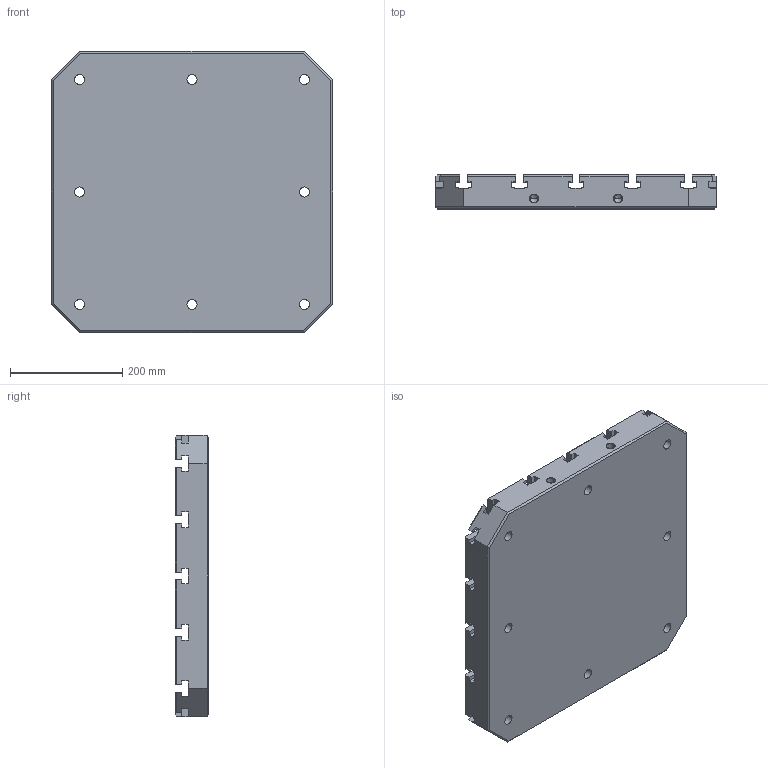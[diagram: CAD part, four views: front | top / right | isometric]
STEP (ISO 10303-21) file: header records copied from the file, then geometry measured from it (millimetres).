
FILE_DESCRIPTION((''),'2;1');
FILE_NAME('FG_WH_BASPL_SQTSLNP002','2026-05-17T13:35:37',('Admin'),(''),'CREO PARAMETRIC BY PTC INC, 2025010','CREO PARAMETRIC BY PTC INC, 2025010','');
FILE_SCHEMA(('CONFIG_CONTROL_DESIGN'));
Length unit declared in the file: millimetre
Products named in the file (1): FG_WH_BASPL_SQTSLNP002
Bounding box: 500 x 60 x 500 mm (x, y, z)
Volume: 12412201.7 mm3; surface area: 905750.8 mm2
Topology: 1 solids, 4 shells, 611 faces, 1702 edges, 1129 vertices
Faces by surface type: plane 529, cylinder 76, cone 6
Entity records: 19402 total; most frequent: CARTESIAN_POINT 3437, ORIENTED_EDGE 3380, DIRECTION 3142, EDGE_CURVE 1696, VECTOR 1474, LINE 1474, VERTEX_POINT 1129, AXIS2_PLACEMENT_3D 834
